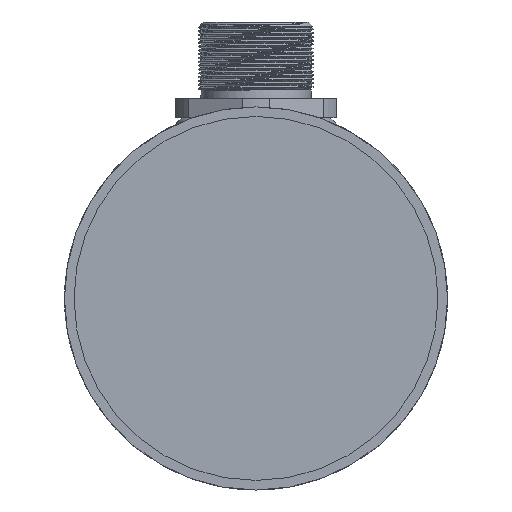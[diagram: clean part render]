
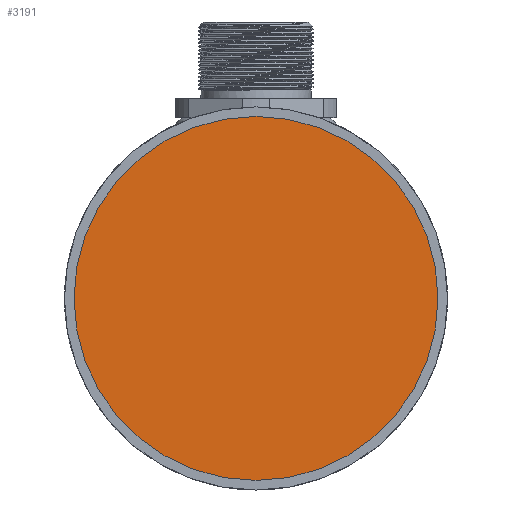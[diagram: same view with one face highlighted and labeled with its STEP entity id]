
A CAD part, left-side view. The second image highlights one B-rep face of the part: STEP entity #3191.
In plain terms, the highlighted planar face has unit normal (-1, 0, 0).
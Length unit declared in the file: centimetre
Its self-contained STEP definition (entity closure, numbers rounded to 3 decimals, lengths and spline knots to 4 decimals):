
#841=CIRCLE('',#3392,1.9);
#929=VERTEX_POINT('',#4129);
#1469=EDGE_CURVE('',#929,#929,#841,.T.);
#1890=ORIENTED_EDGE('',*,*,#1469,.T.);
#2711=EDGE_LOOP('',(#1890));
#2952=FACE_BOUND('',#2711,.T.);
#3191=ADVANCED_FACE('',(#2952),#17385,.T.);
#3392=AXIS2_PLACEMENT_3D('',#4128,#3622,#3623);
#3394=AXIS2_PLACEMENT_3D('',#4132,#3626,$);
#3622=DIRECTION('',(-1.,0.,0.));
#3623=DIRECTION('',(0.,0.,1.9));
#3626=DIRECTION('',(-1.,0.,0.));
#4128=CARTESIAN_POINT('',(0.1,0.,0.));
#4129=CARTESIAN_POINT('',(0.1,0.,1.9));
#4132=CARTESIAN_POINT('',(0.1,0.,0.));
#17385=PLANE('',#3394);
